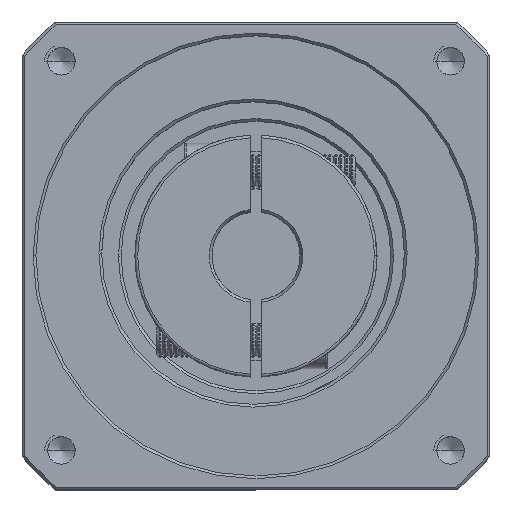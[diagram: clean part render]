
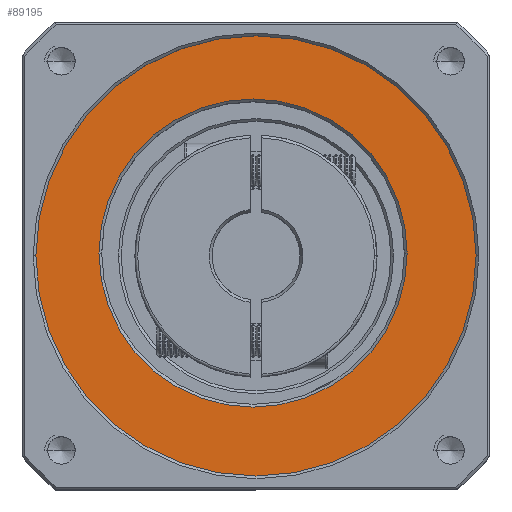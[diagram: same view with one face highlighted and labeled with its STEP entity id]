
A CAD part, top view. The second image highlights one B-rep face of the part: STEP entity #89195.
In plain terms, the highlighted planar face has unit normal (0, 0, 1).
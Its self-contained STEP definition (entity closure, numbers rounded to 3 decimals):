
#72 = VERTEX_POINT ( 'NONE', #68141 ) ;
#822 = AXIS2_PLACEMENT_3D ( 'NONE', #85037, #29033, #94407 ) ;
#7561 = EDGE_CURVE ( 'NONE', #59670, #96190, #38481, .T. ) ;
#10589 = AXIS2_PLACEMENT_3D ( 'NONE', #96732, #40824, #106023 ) ;
#13838 = CARTESIAN_POINT ( 'NONE',  ( -95.926, 18.511, 20.519 ) ) ;
#16824 = DIRECTION ( 'NONE',  ( 0., 0., 1. ) ) ;
#16910 = AXIS2_PLACEMENT_3D ( 'NONE', #13838, #79199, #23246 ) ;
#22819 = PLANE ( 'NONE',  #16910 ) ;
#23246 = DIRECTION ( 'NONE',  ( 1., 0., 0. ) ) ;
#29033 = DIRECTION ( 'NONE',  ( 0., 0., -1. ) ) ;
#29161 = CARTESIAN_POINT ( 'NONE',  ( -124.468, 19.045, 20.519 ) ) ;
#35476 = EDGE_CURVE ( 'NONE', #96190, #59670, #103476, .T. ) ;
#37025 = CARTESIAN_POINT ( 'NONE',  ( -55.926, 18.511, 20.519 ) ) ;
#38481 = CIRCLE ( 'NONE', #822, 28. ) ;
#38546 = ORIENTED_EDGE ( 'NONE', *, *, #117674, .T. ) ;
#40824 = DIRECTION ( 'NONE',  ( 0., 0., -1. ) ) ;
#44938 = CIRCLE ( 'NONE', #48399, 40. ) ;
#45314 = CIRCLE ( 'NONE', #51398, 40. ) ;
#48399 = AXIS2_PLACEMENT_3D ( 'NONE', #52931, #118095, #62271 ) ;
#51052 = EDGE_LOOP ( 'NONE', ( #114225, #120558 ) ) ;
#51398 = AXIS2_PLACEMENT_3D ( 'NONE', #72828, #16824, #82191 ) ;
#52931 = CARTESIAN_POINT ( 'NONE',  ( -95.926, 18.511, 20.519 ) ) ;
#59670 = VERTEX_POINT ( 'NONE', #105314 ) ;
#62271 = DIRECTION ( 'NONE',  ( 1., 0., 0. ) ) ;
#67733 = EDGE_CURVE ( 'NONE', #109304, #72, #44938, .T. ) ;
#68141 = CARTESIAN_POINT ( 'NONE',  ( -135.926, 18.511, 20.519 ) ) ;
#72828 = CARTESIAN_POINT ( 'NONE',  ( -95.926, 18.511, 20.519 ) ) ;
#75167 = FACE_BOUND ( 'NONE', #51052, .T. ) ;
#79199 = DIRECTION ( 'NONE',  ( 0., 0., 1. ) ) ;
#82191 = DIRECTION ( 'NONE',  ( 1., 0., 0. ) ) ;
#85037 = CARTESIAN_POINT ( 'NONE',  ( -96.468, 19.045, 20.519 ) ) ;
#89195 = ADVANCED_FACE ( 'NONE', ( #97036, #75167 ), #22819, .T. ) ;
#90099 = ORIENTED_EDGE ( 'NONE', *, *, #67733, .T. ) ;
#93052 = EDGE_LOOP ( 'NONE', ( #90099, #38546 ) ) ;
#94407 = DIRECTION ( 'NONE',  ( 1., 0., 0. ) ) ;
#96190 = VERTEX_POINT ( 'NONE', #29161 ) ;
#96732 = CARTESIAN_POINT ( 'NONE',  ( -96.468, 19.045, 20.519 ) ) ;
#97036 = FACE_OUTER_BOUND ( 'NONE', #93052, .T. ) ;
#103476 = CIRCLE ( 'NONE', #10589, 28. ) ;
#105314 = CARTESIAN_POINT ( 'NONE',  ( -68.468, 19.045, 20.519 ) ) ;
#106023 = DIRECTION ( 'NONE',  ( 1., 0., 0. ) ) ;
#109304 = VERTEX_POINT ( 'NONE', #37025 ) ;
#114225 = ORIENTED_EDGE ( 'NONE', *, *, #7561, .T. ) ;
#117674 = EDGE_CURVE ( 'NONE', #72, #109304, #45314, .T. ) ;
#118095 = DIRECTION ( 'NONE',  ( 0., 0., 1. ) ) ;
#120558 = ORIENTED_EDGE ( 'NONE', *, *, #35476, .T. ) ;
